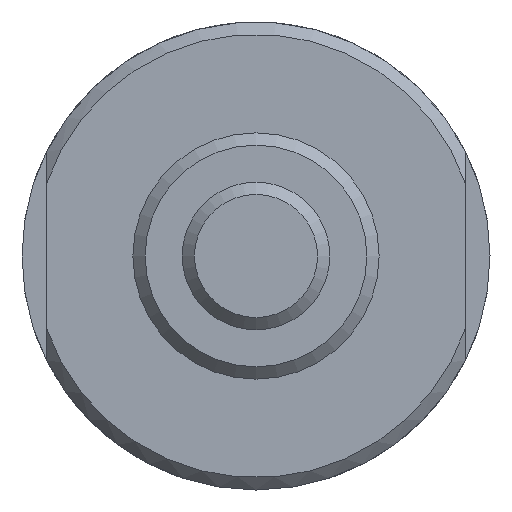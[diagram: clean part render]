
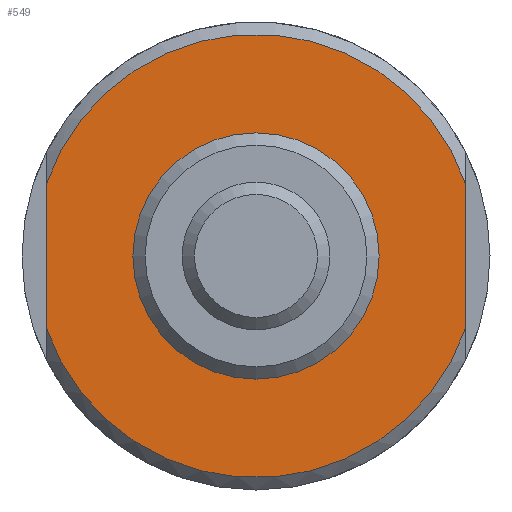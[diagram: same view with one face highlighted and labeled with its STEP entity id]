
A CAD part, left-side view. The second image highlights one B-rep face of the part: STEP entity #549.
In plain terms, the highlighted planar face has unit normal (-1, 0, 0).
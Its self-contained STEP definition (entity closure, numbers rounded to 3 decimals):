
#80=CIRCLE('',#643,5.);
#81=CIRCLE('',#644,9.);
#82=CIRCLE('',#645,9.);
#163=ORIENTED_EDGE('',*,*,#251,.T.);
#164=ORIENTED_EDGE('',*,*,#252,.F.);
#165=ORIENTED_EDGE('',*,*,#253,.F.);
#166=ORIENTED_EDGE('',*,*,#254,.T.);
#167=ORIENTED_EDGE('',*,*,#255,.F.);
#251=EDGE_CURVE('',#306,#306,#80,.T.);
#252=EDGE_CURVE('',#307,#308,#337,.T.);
#253=EDGE_CURVE('',#309,#307,#81,.T.);
#254=EDGE_CURVE('',#309,#310,#338,.T.);
#255=EDGE_CURVE('',#308,#310,#82,.T.);
#306=VERTEX_POINT('',#952);
#307=VERTEX_POINT('',#954);
#308=VERTEX_POINT('',#955);
#309=VERTEX_POINT('',#957);
#310=VERTEX_POINT('',#959);
#337=LINE('',#953,#355);
#338=LINE('',#958,#356);
#355=VECTOR('',#792,1000.);
#356=VECTOR('',#795,1000.);
#407=EDGE_LOOP('',(#163));
#408=EDGE_LOOP('',(#164,#165,#166,#167));
#477=FACE_BOUND('',#407,.T.);
#478=FACE_BOUND('',#408,.T.);
#516=PLANE('',#642);
#549=ADVANCED_FACE('',(#477,#478),#516,.F.);
#642=AXIS2_PLACEMENT_3D('',#950,#788,#789);
#643=AXIS2_PLACEMENT_3D('',#951,#790,#791);
#644=AXIS2_PLACEMENT_3D('',#956,#793,#794);
#645=AXIS2_PLACEMENT_3D('',#960,#796,#797);
#788=DIRECTION('',(1.,0.,0.));
#789=DIRECTION('',(0.,0.,-1.));
#790=DIRECTION('',(1.,0.,0.));
#791=DIRECTION('',(0.,0.,-1.));
#792=DIRECTION('',(0.,0.,-1.));
#793=DIRECTION('',(1.,0.,0.));
#794=DIRECTION('',(0.,0.,-1.));
#795=DIRECTION('',(0.,0.,-1.));
#796=DIRECTION('',(1.,0.,0.));
#797=DIRECTION('',(0.,0.,-1.));
#950=CARTESIAN_POINT('',(0.,0.,0.));
#951=CARTESIAN_POINT('',(0.,0.,0.));
#952=CARTESIAN_POINT('',(0.,0.,-5.));
#953=CARTESIAN_POINT('',(0.,-8.5,10.));
#954=CARTESIAN_POINT('',(0.,-8.5,2.958));
#955=CARTESIAN_POINT('',(0.,-8.5,-2.958));
#956=CARTESIAN_POINT('',(0.,0.,0.));
#957=CARTESIAN_POINT('',(0.,8.5,2.958));
#958=CARTESIAN_POINT('',(0.,8.5,10.));
#959=CARTESIAN_POINT('',(0.,8.5,-2.958));
#960=CARTESIAN_POINT('',(0.,0.,0.));
